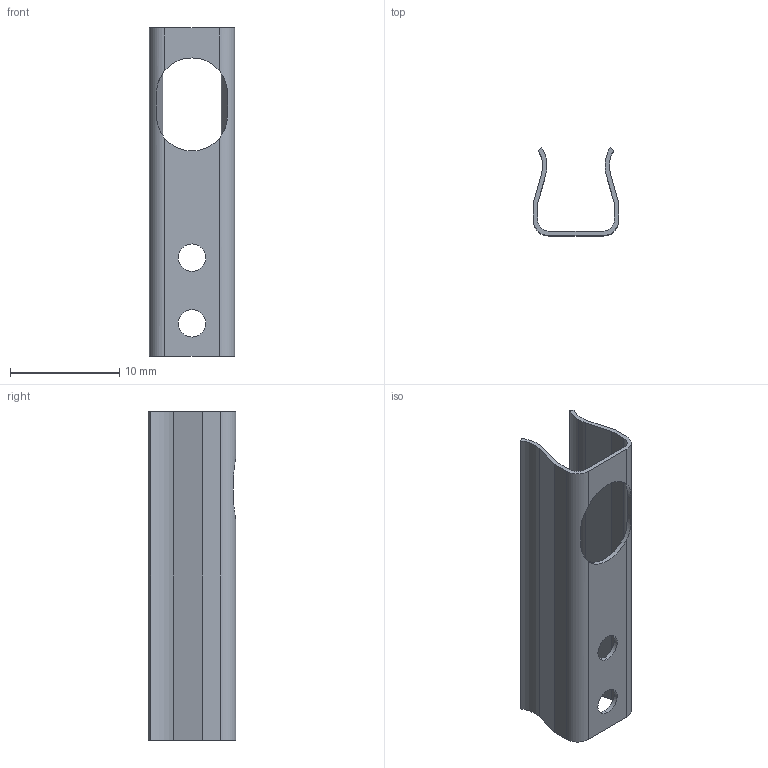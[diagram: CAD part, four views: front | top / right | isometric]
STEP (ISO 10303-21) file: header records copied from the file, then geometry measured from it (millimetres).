
FILE_DESCRIPTION (( 'STEP AP214' ), '1' );
FILE_NAME ('8.0010.4K00.0000.STEP', '2008-10-16T08:49:38', ( 'admin' ), ( 'Fritz Kübler GmbH' ), 'SwSTEP 2.0', 'SolidWorks 2008', '' );
FILE_SCHEMA (( 'AUTOMOTIVE_DESIGN' ));
Length unit declared in the file: millimetre
Products named in the file (1): 8.0010.4K00.0000
Bounding box: 7.8 x 8 x 30 mm (x, y, z)
Volume: 243.1 mm3; surface area: 1274.3 mm2
Topology: 1 solids, 1 shells, 35 faces, 105 edges, 70 vertices
Faces by surface type: plane 18, cylinder 17
Entity records: 1665 total; most frequent: CARTESIAN_POINT 279, ORIENTED_EDGE 210, DIRECTION 203, EDGE_CURVE 105, AXIS2_PLACEMENT_3D 70, VERTEX_POINT 70, LINE 63, VECTOR 63
